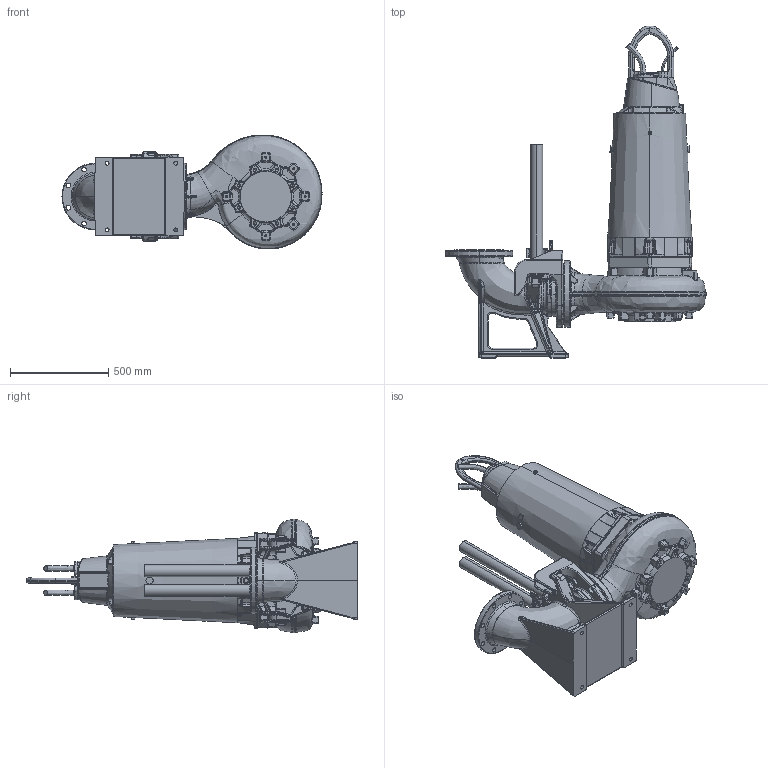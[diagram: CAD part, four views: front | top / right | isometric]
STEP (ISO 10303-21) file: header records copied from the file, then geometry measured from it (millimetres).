
FILE_DESCRIPTION (( 'STEP AP214' ), '1' );
FILE_NAME ('PE4_XFP200J-CH2_WET 2guide_A_NG2.STEP', '2017-03-15T07:23:04', ( '' ), ( '' ), 'SwSTEP 2.0', 'SolidWorks 2017', '' );
FILE_SCHEMA (( 'AUTOMOTIVE_DESIGN' ));
Length unit declared in the file: millimetre
Products named in the file (1): PE4_XFP200J-CH2_WET 2guide_A_NG2
Bounding box: 1325.82 x 1691.6 x 580.89 mm (x, y, z)
Volume: 212632256.6 mm3; surface area: 4795806.4 mm2
Topology: 4 solids, 4 shells, 3840 faces, 9445 edges, 5458 vertices
Faces by surface type: bspline 1391, cylinder 912, plane 726, torus 386, cone 308, sphere 117
Entity records: 249656 total; most frequent: CARTESIAN_POINT 128656, ORIENTED_EDGE 18424, DIRECTION 14113, EDGE_CURVE 9212, AXIS2_PLACEMENT_3D 5803, VERTEX_POINT 5452, EDGE_LOOP 3984, UNCERTAINTY_MEASURE_WITH_UNIT 3846
